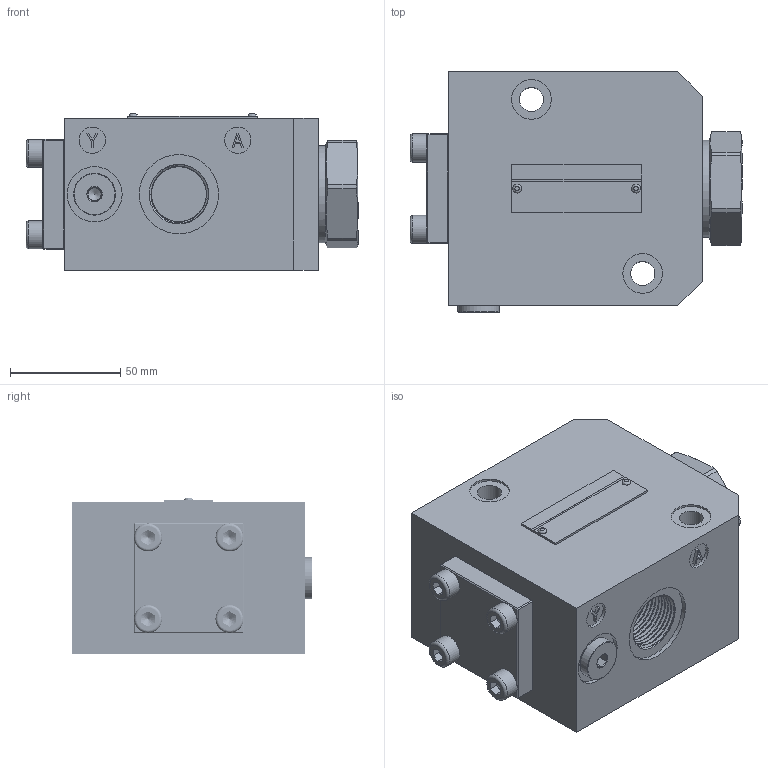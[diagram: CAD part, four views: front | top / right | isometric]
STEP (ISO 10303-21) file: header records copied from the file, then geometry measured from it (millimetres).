
FILE_DESCRIPTION(/* description */ (''),/* implementation_level */ '2;1');
FILE_NAME(/* name */ 'SV15G-1(2)-4XJ液控单向阀（管式）.prt.stp',/* time_stamp */ '2022-03-30T19:19:26+08:00',/* author */ (''),/* organization */ (''),/* preprocessor_version */ 'ST-DEVELOPER v16.7',/* originating_system */ 'SIEMENS PLM Software NX 12.0',/* authorisation */ '');
FILE_SCHEMA (('AUTOMOTIVE_DESIGN { 1 0 10303 214 3 1 1 1 }'));
Products named in the file (1): SV15G-1(2)-4XJ液控单向阀（管式）
Bounding box: 150.74 x 109 x 71 mm (x, y, z)
Volume: 869322 mm3; surface area: 102879 mm2
Topology: 12 solids, 12 shells, 470 faces, 1124 edges, 708 vertices
Faces by surface type: plane 214, cylinder 129, cone 50, bspline 40, extrusion 26, torus 11
Full cylindrical faces by diameter (mm): 1.8 x6, 3.4 x1, 5 x2, 6 x1, 6.7 x52, 9 x4, 11 x2, 12 x4, 12.3 x2, 12.73 x4, 16 x2, 16.6 x1, 18 x2, 19 x1, 25 x2, 29.2 x1, 36 x3, 39.7 x1, 40.5 x1, 44 x2
Entity records: 62851 total; most frequent: CARTESIAN_POINT 53604, ORIENTED_EDGE 1686, DIRECTION 1549, EDGE_CURVE 843, VERTEX_POINT 585, AXIS2_PLACEMENT_3D 568, EDGE_LOOP 562, ADVANCED_FACE 418
